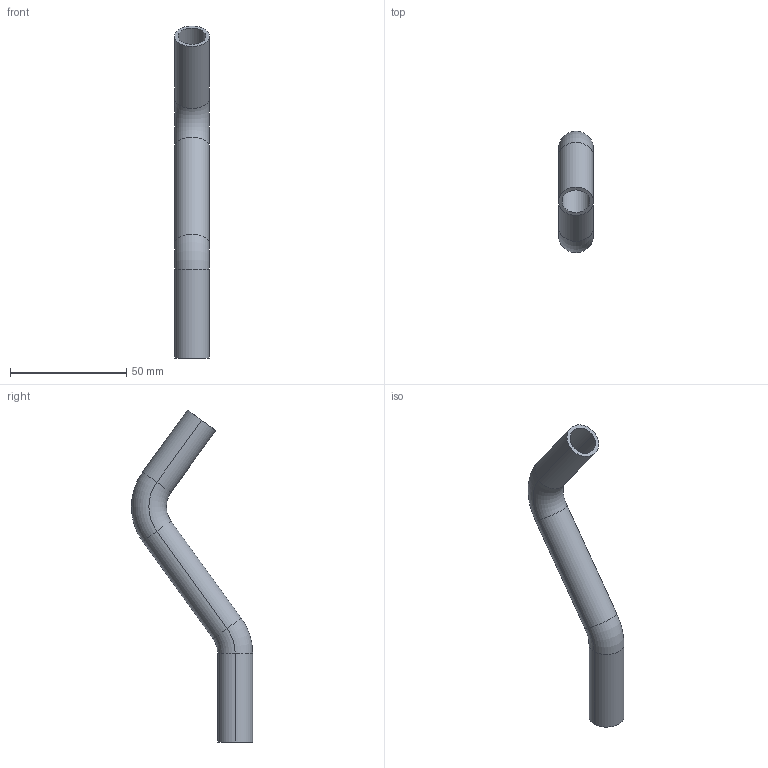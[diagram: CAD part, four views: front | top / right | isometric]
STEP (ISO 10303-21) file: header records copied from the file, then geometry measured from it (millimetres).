
FILE_DESCRIPTION(('OneSpaceDesigner STEP Export'),'2;1');
FILE_NAME('R2717 15x15.stp','2010-06-10T 9:53:09',(''),(''),'OneSpace Designer STEP processor for AP214 (Solid Model)','OneSpace Modeling 15.00A 14-Mar-2007 (C) CoCreate Software GmbH','');
FILE_SCHEMA(('AUTOMOTIVE_DESIGN { 1 0 10303 214 1 1 1 1 }'));
Length unit declared in the file: millimetre
Products named in the file (2): R2717_15x15
Assembly tree (1 placements, depth 2):
  R2717_15x15
    R2717_15x15
Bounding box: 15 x 52 x 142.52 mm (x, y, z)
Volume: 9942.2 mm3; surface area: 13383.5 mm2
Topology: 1 solids, 1 shells, 22 faces, 44 edges, 24 vertices
Faces by surface type: cylinder 12, torus 8, plane 2
Entity records: 531 total; most frequent: DIRECTION 88, ORIENTED_EDGE 88, CARTESIAN_POINT 74, EDGE_CURVE 44, AXIS2_PLACEMENT_3D 38, CIRCLE 24, VERTEX_POINT 24, EDGE_LOOP 24
